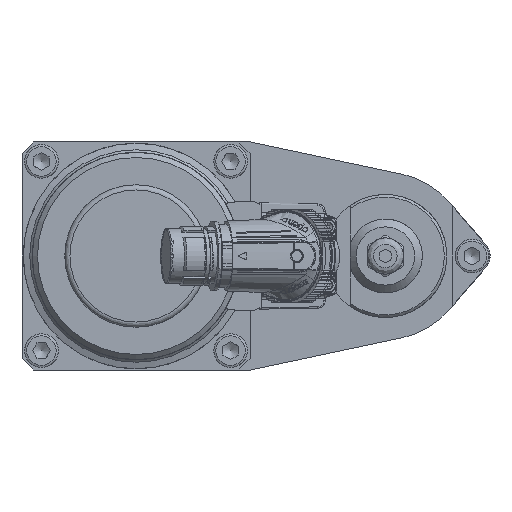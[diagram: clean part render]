
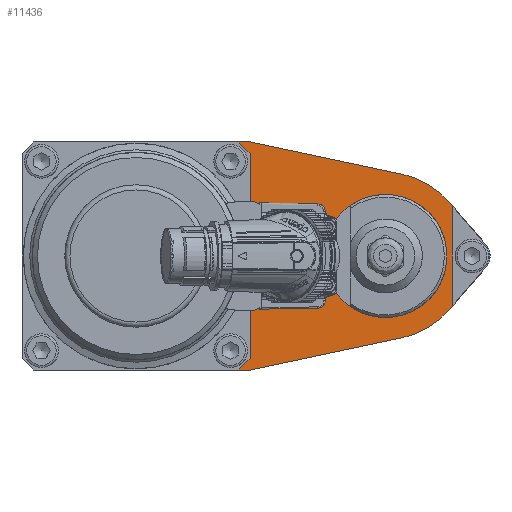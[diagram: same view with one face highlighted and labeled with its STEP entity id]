
A CAD part, left-side view. The second image highlights one B-rep face of the part: STEP entity #11436.
In plain terms, the highlighted planar face has unit normal (-1, 0, 0).
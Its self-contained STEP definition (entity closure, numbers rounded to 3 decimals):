
#23 = CARTESIAN_POINT ( 'NONE',  ( -132., 0., 0. ) ) ;
#1020 = VERTEX_POINT ( 'NONE', #65231 ) ;
#1041 = DIRECTION ( 'NONE',  ( 1., 0., 0. ) ) ;
#1076 = CARTESIAN_POINT ( 'NONE',  ( -132., 52.13, 44. ) ) ;
#1209 = ORIENTED_EDGE ( 'NONE', *, *, #38898, .F. ) ;
#1612 = DIRECTION ( 'NONE',  ( 0., 0., 1. ) ) ;
#1856 = LINE ( 'NONE', #57988, #10677 ) ;
#2898 = CIRCLE ( 'NONE', #52422, 32.2 ) ;
#2997 = DIRECTION ( 'NONE',  ( 0., 0., 1. ) ) ;
#3246 = EDGE_CURVE ( 'NONE', #1020, #62013, #15314, .T. ) ;
#4321 = EDGE_CURVE ( 'NONE', #11906, #42151, #2898, .T. ) ;
#4652 = ORIENTED_EDGE ( 'NONE', *, *, #12379, .F. ) ;
#5020 = CARTESIAN_POINT ( 'NONE',  ( -132., 52.13, -44. ) ) ;
#5274 = DIRECTION ( 'NONE',  ( 0., 0.978, -0.208 ) ) ;
#5666 = DIRECTION ( 'NONE',  ( 0., -0.656, -0.755 ) ) ;
#6838 = EDGE_CURVE ( 'NONE', #10879, #72959, #54118, .T. ) ;
#8117 = VERTEX_POINT ( 'NONE', #75496 ) ;
#8125 = EDGE_CURVE ( 'NONE', #8117, #52366, #38040, .T. ) ;
#8902 = CARTESIAN_POINT ( 'NONE',  ( -132., 52.213, -39.5 ) ) ;
#10204 = CARTESIAN_POINT ( 'NONE',  ( -132., -24.302, 21.125 ) ) ;
#10677 = VECTOR ( 'NONE', #63975, 1000. ) ;
#10879 = VERTEX_POINT ( 'NONE', #76278 ) ;
#11199 = LINE ( 'NONE', #69583, #49874 ) ;
#11436 = ADVANCED_FACE ( 'NONE', ( #68881, #68818 ), #31579, .T. ) ;
#11906 = VERTEX_POINT ( 'NONE', #18409 ) ;
#11973 = VERTEX_POINT ( 'NONE', #19184 ) ;
#12379 = EDGE_CURVE ( 'NONE', #42151, #10879, #59120, .T. ) ;
#13538 = LINE ( 'NONE', #42869, #13640 ) ;
#13640 = VECTOR ( 'NONE', #43143, 1000. ) ;
#13782 = ORIENTED_EDGE ( 'NONE', *, *, #76551, .T. ) ;
#15314 = CIRCLE ( 'NONE', #29583, 23.75 ) ;
#16095 = VECTOR ( 'NONE', #5274, 1000. ) ;
#16479 = LINE ( 'NONE', #5020, #16095 ) ;
#16812 = VECTOR ( 'NONE', #31489, 1000. ) ;
#17419 = VECTOR ( 'NONE', #35695, 1000. ) ;
#17571 = LINE ( 'NONE', #25501, #16812 ) ;
#18409 = CARTESIAN_POINT ( 'NONE',  ( -132., -6.695, 31.496 ) ) ;
#19184 = CARTESIAN_POINT ( 'NONE',  ( -132., -24.302, -21.125 ) ) ;
#19292 = CARTESIAN_POINT ( 'NONE',  ( -132., 52.13, 44. ) ) ;
#20751 = CARTESIAN_POINT ( 'NONE',  ( -132., 19., 14.25 ) ) ;
#21297 = ORIENTED_EDGE ( 'NONE', *, *, #43840, .F. ) ;
#21943 = VECTOR ( 'NONE', #25361, 1000. ) ;
#22329 = LINE ( 'NONE', #19292, #21943 ) ;
#23876 = ORIENTED_EDGE ( 'NONE', *, *, #70943, .F. ) ;
#23880 = CARTESIAN_POINT ( 'NONE',  ( -132., -24.302, 21.125 ) ) ;
#24193 = ORIENTED_EDGE ( 'NONE', *, *, #6838, .F. ) ;
#25361 = DIRECTION ( 'NONE',  ( 0., -0.978, -0.208 ) ) ;
#25501 = CARTESIAN_POINT ( 'NONE',  ( -132., 19., -14.25 ) ) ;
#26672 = CARTESIAN_POINT ( 'NONE',  ( -132., 56.713, 44. ) ) ;
#26781 = CIRCLE ( 'NONE', #63358, 32.2 ) ;
#27374 = DIRECTION ( 'NONE',  ( 0., 0.656, -0.755 ) ) ;
#29583 = AXIS2_PLACEMENT_3D ( 'NONE', #48001, #47987, #47930 ) ;
#31362 = VERTEX_POINT ( 'NONE', #73162 ) ;
#31489 = DIRECTION ( 'NONE',  ( 0., 0., -1. ) ) ;
#31579 = PLANE ( 'NONE',  #74603 ) ;
#32805 = LINE ( 'NONE', #56730, #75915 ) ;
#33520 = ORIENTED_EDGE ( 'NONE', *, *, #43279, .F. ) ;
#35695 = DIRECTION ( 'NONE',  ( 0., 0.707, -0.707 ) ) ;
#37114 = ORIENTED_EDGE ( 'NONE', *, *, #49257, .F. ) ;
#37490 = DIRECTION ( 'NONE',  ( -1., 0., 0. ) ) ;
#37677 = VECTOR ( 'NONE', #75069, 1000. ) ;
#38040 = LINE ( 'NONE', #76441, #37677 ) ;
#38507 = LINE ( 'NONE', #70992, #17419 ) ;
#38867 = DIRECTION ( 'NONE',  ( 1., 0., 0. ) ) ;
#38898 = EDGE_CURVE ( 'NONE', #72959, #11973, #32805, .T. ) ;
#41982 = ORIENTED_EDGE ( 'NONE', *, *, #4321, .F. ) ;
#42151 = VERTEX_POINT ( 'NONE', #10204 ) ;
#42869 = CARTESIAN_POINT ( 'NONE',  ( -132., 56.713, 44. ) ) ;
#43143 = DIRECTION ( 'NONE',  ( 0., -0.707, -0.707 ) ) ;
#43279 = EDGE_CURVE ( 'NONE', #62013, #1020, #17571, .T. ) ;
#43840 = EDGE_CURVE ( 'NONE', #62432, #75126, #11199, .T. ) ;
#44766 = ORIENTED_EDGE ( 'NONE', *, *, #54216, .F. ) ;
#46733 = EDGE_LOOP ( 'NONE', ( #33520, #58185 ) ) ;
#47930 = DIRECTION ( 'NONE',  ( 0., 0., 1. ) ) ;
#47987 = DIRECTION ( 'NONE',  ( -1., 0., 0. ) ) ;
#48001 = CARTESIAN_POINT ( 'NONE',  ( -132., 0., 0. ) ) ;
#49257 = EDGE_CURVE ( 'NONE', #62160, #31362, #16479, .T. ) ;
#49874 = VECTOR ( 'NONE', #75538, 1000. ) ;
#50484 = VERTEX_POINT ( 'NONE', #74845 ) ;
#52366 = VERTEX_POINT ( 'NONE', #8902 ) ;
#52422 = AXIS2_PLACEMENT_3D ( 'NONE', #23, #1041, #63363 ) ;
#54007 = VECTOR ( 'NONE', #65622, 1000. ) ;
#54118 = LINE ( 'NONE', #65874, #54007 ) ;
#54216 = EDGE_CURVE ( 'NONE', #31362, #50484, #1856, .T. ) ;
#55567 = ORIENTED_EDGE ( 'NONE', *, *, #8125, .T. ) ;
#56587 = EDGE_CURVE ( 'NONE', #52366, #50484, #38507, .T. ) ;
#56730 = CARTESIAN_POINT ( 'NONE',  ( -132., -24.302, -21.125 ) ) ;
#57988 = CARTESIAN_POINT ( 'NONE',  ( -132., 140.213, -44. ) ) ;
#58185 = ORIENTED_EDGE ( 'NONE', *, *, #3246, .F. ) ;
#59120 = LINE ( 'NONE', #23880, #59826 ) ;
#59826 = VECTOR ( 'NONE', #5666, 1000. ) ;
#60762 = EDGE_LOOP ( 'NONE', ( #13782, #55567, #61342, #44766, #37114, #71371, #1209, #24193, #4652, #41982, #23876, #21297 ) ) ;
#61342 = ORIENTED_EDGE ( 'NONE', *, *, #56587, .T. ) ;
#62013 = VERTEX_POINT ( 'NONE', #20751 ) ;
#62160 = VERTEX_POINT ( 'NONE', #63085 ) ;
#62432 = VERTEX_POINT ( 'NONE', #26672 ) ;
#63085 = CARTESIAN_POINT ( 'NONE',  ( -132., -6.695, -31.496 ) ) ;
#63358 = AXIS2_PLACEMENT_3D ( 'NONE', #74191, #38867, #2997 ) ;
#63363 = DIRECTION ( 'NONE',  ( 0., 0., 1. ) ) ;
#63975 = DIRECTION ( 'NONE',  ( 0., 1., 0. ) ) ;
#65231 = CARTESIAN_POINT ( 'NONE',  ( -132., 19., -14.25 ) ) ;
#65622 = DIRECTION ( 'NONE',  ( 0., 0., -1. ) ) ;
#65874 = CARTESIAN_POINT ( 'NONE',  ( -132., -25.89, -19.298 ) ) ;
#66834 = CARTESIAN_POINT ( 'NONE',  ( -132., 49.911, 0. ) ) ;
#68818 = FACE_BOUND ( 'NONE', #46733, .T. ) ;
#68881 = FACE_OUTER_BOUND ( 'NONE', #60762, .T. ) ;
#69583 = CARTESIAN_POINT ( 'NONE',  ( -132., 140.213, 44. ) ) ;
#70492 = EDGE_CURVE ( 'NONE', #11973, #62160, #26781, .T. ) ;
#70943 = EDGE_CURVE ( 'NONE', #75126, #11906, #22329, .T. ) ;
#70992 = CARTESIAN_POINT ( 'NONE',  ( -132., 52.213, -39.5 ) ) ;
#71371 = ORIENTED_EDGE ( 'NONE', *, *, #70492, .F. ) ;
#72959 = VERTEX_POINT ( 'NONE', #74194 ) ;
#73162 = CARTESIAN_POINT ( 'NONE',  ( -132., 52.13, -44. ) ) ;
#74191 = CARTESIAN_POINT ( 'NONE',  ( -132., 0., 0. ) ) ;
#74194 = CARTESIAN_POINT ( 'NONE',  ( -132., -25.89, -19.298 ) ) ;
#74603 = AXIS2_PLACEMENT_3D ( 'NONE', #66834, #37490, #1612 ) ;
#74845 = CARTESIAN_POINT ( 'NONE',  ( -132., 56.713, -44. ) ) ;
#75069 = DIRECTION ( 'NONE',  ( 0., 0., -1. ) ) ;
#75126 = VERTEX_POINT ( 'NONE', #1076 ) ;
#75496 = CARTESIAN_POINT ( 'NONE',  ( -132., 52.213, 39.5 ) ) ;
#75538 = DIRECTION ( 'NONE',  ( 0., -1., 0. ) ) ;
#75915 = VECTOR ( 'NONE', #27374, 1000. ) ;
#76278 = CARTESIAN_POINT ( 'NONE',  ( -132., -25.89, 19.298 ) ) ;
#76441 = CARTESIAN_POINT ( 'NONE',  ( -132., 52.213, 44. ) ) ;
#76551 = EDGE_CURVE ( 'NONE', #62432, #8117, #13538, .T. ) ;
